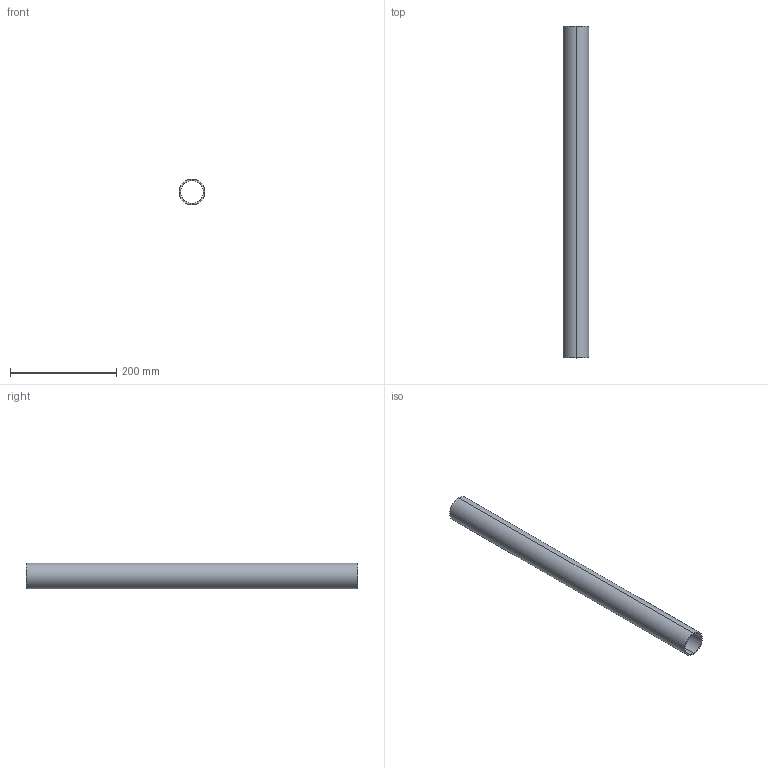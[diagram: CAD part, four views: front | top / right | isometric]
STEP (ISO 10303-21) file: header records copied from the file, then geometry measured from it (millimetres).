
FILE_DESCRIPTION (( 'STEP AP214' ), '1' );
FILE_NAME ('CCJ029-REP.321 - MAIN COURANTE PLATEFORME INFERIEURE B6-ESCALIER.STEP', '2024-01-31T10:04:45', ( '' ), ( '' ), 'SwSTEP 2.0', 'SolidWorks 2021', '' );
FILE_SCHEMA (( 'AUTOMOTIVE_DESIGN' ));
Length unit declared in the file: millimetre
Products named in the file (1): CCJ029-REP.321 - MAIN COURANTE PLATEFORME INFERIEURE B6-ESCALIER
Bounding box: 48.3 x 625 x 48.3 mm (x, y, z)
Volume: 224820.2 mm3; surface area: 180575.6 mm2
Topology: 1 solids, 1 shells, 6 faces, 12 edges, 8 vertices
Faces by surface type: cylinder 4, plane 2
Entity records: 202 total; most frequent: DIRECTION 34, CARTESIAN_POINT 27, ORIENTED_EDGE 24, AXIS2_PLACEMENT_3D 15, EDGE_CURVE 12, CIRCLE 8, EDGE_LOOP 8, VERTEX_POINT 8
